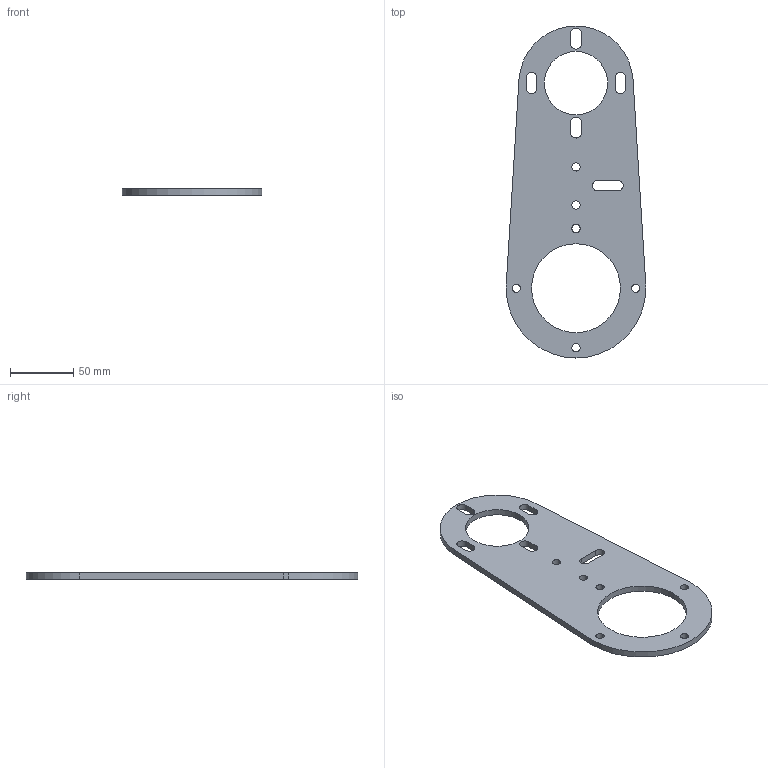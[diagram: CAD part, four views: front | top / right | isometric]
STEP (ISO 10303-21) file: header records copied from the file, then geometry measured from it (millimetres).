
FILE_DESCRIPTION (( 'STEP AP203' ), '1' );
FILE_NAME ('084.809.002.STEP', '2013-01-29T13:06:48', ( 'Alusic' ), ( 'Alusic' ), 'SwSTEP 2.0', 'SolidWorks 2011', '' );
FILE_SCHEMA (( 'CONFIG_CONTROL_DESIGN' ));
Length unit declared in the file: millimetre
Products named in the file (1): 084.809.002
Bounding box: 110 x 261.5 x 5 mm (x, y, z)
Volume: 87097.3 mm3; surface area: 41668.2 mm2
Topology: 1 solids, 1 shells, 45 faces, 129 edges, 86 vertices
Faces by surface type: cylinder 31, plane 14
Entity records: 1634 total; most frequent: DIRECTION 283, CARTESIAN_POINT 261, ORIENTED_EDGE 258, EDGE_CURVE 129, AXIS2_PLACEMENT_3D 108, VERTEX_POINT 86, EDGE_LOOP 71, LINE 67
